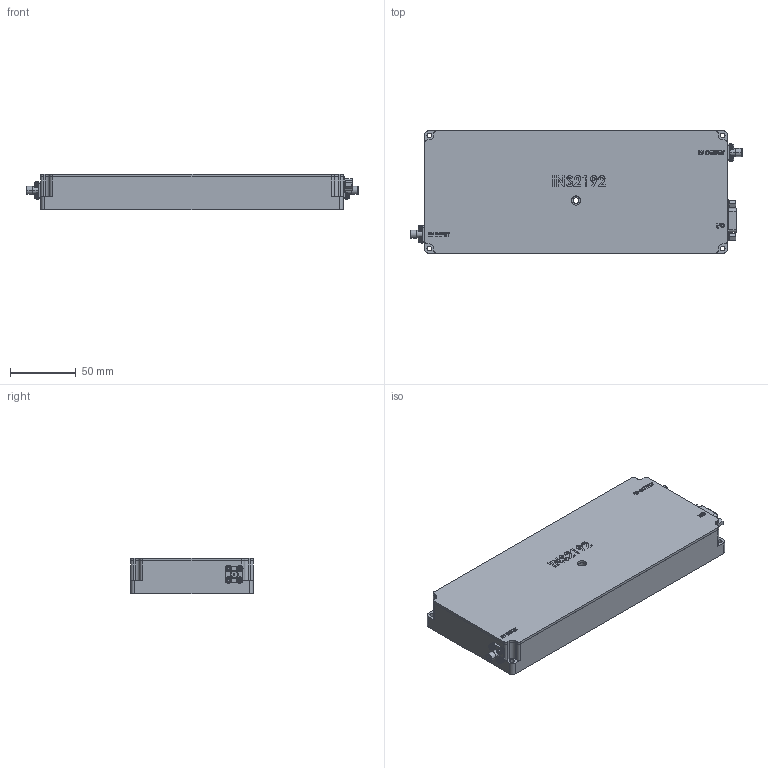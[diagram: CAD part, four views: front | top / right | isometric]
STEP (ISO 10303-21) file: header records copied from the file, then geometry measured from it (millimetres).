
FILE_DESCRIPTION (( 'STEP AP203' ), '1' );
FILE_NAME ('ins2192.STEP', '2025-06-04T00:47:55', ( '' ), ( '' ), 'SwSTEP 2.0', 'SolidWorks 2025', '' );
FILE_SCHEMA (( 'CONFIG_CONTROL_DESIGN' ));
Length unit declared in the file: millimetre
Products named in the file (6): dsub-9pin_2021_표준; sma-4h2017; INS2192; ph-m2.6-sems2017; ins2192
Assembly tree (9 placements, depth 3):
  ins2192
    INS2192
    dsub-9pin_2021_표준
    sma-4h2017  x2
      sma-4h2017
      ph-m2.6-sems2017
Bounding box: 252.3 x 93 x 27 mm (x, y, z)
Volume: 574877.8 mm3; surface area: 108165.4 mm2
Topology: 13 solids, 13 shells, 972 faces, 2461 edges, 1616 vertices
Faces by surface type: plane 526, cylinder 307, bspline 84, torus 55
Entity records: 26421 total; most frequent: CARTESIAN_POINT 9579, ORIENTED_EDGE 3454, DIRECTION 3098, EDGE_CURVE 1727, VERTEX_POINT 1136, LINE 1054, VECTOR 1054, AXIS2_PLACEMENT_3D 1022
